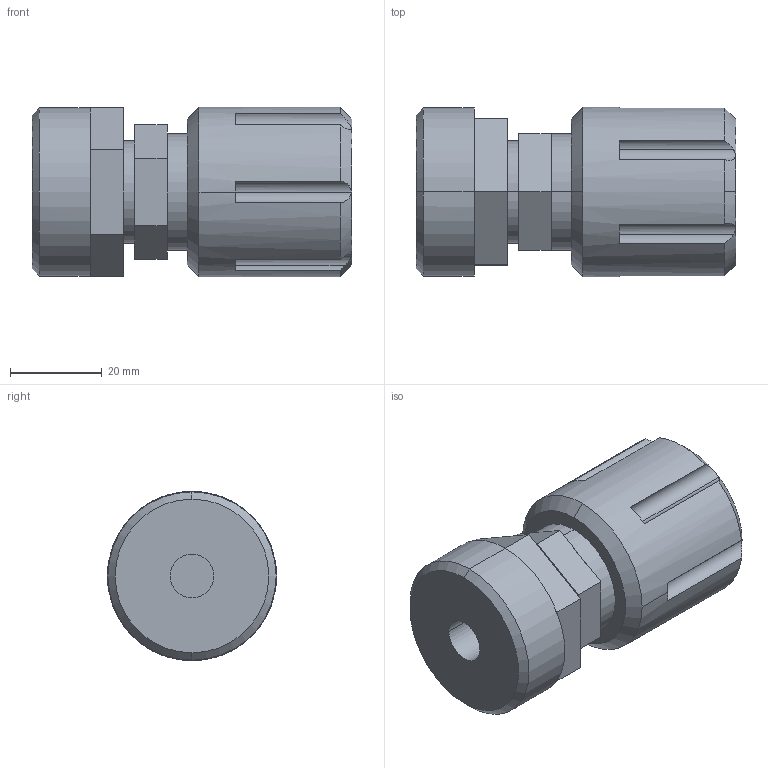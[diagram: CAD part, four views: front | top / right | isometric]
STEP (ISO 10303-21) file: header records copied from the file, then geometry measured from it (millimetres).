
FILE_DESCRIPTION (( 'STEP AP214' ), '1' );
FILE_NAME ('12-flaretek-with-top-mount-adapter.STEP', '2012-11-27T21:29:05', ( '' ), ( '' ), 'SwSTEP 2.0', 'SolidWorks 2012', '' );
FILE_SCHEMA (( 'AUTOMOTIVE_DESIGN' ));
Length unit declared in the file: inch
Products named in the file (1): 12-flaretek-with-top-mount-adapter
Bounding box: 69.59 x 36.83 x 36.83 mm (x, y, z)
Volume: 59280.3 mm3; surface area: 11828.9 mm2
Topology: 1 solids, 1 shells, 71 faces, 172 edges, 108 vertices
Faces by surface type: plane 43, cylinder 22, cone 6
Entity records: 2303 total; most frequent: CARTESIAN_POINT 516, DIRECTION 380, ORIENTED_EDGE 344, EDGE_CURVE 172, AXIS2_PLACEMENT_3D 146, VERTEX_POINT 108, LINE 88, VECTOR 88
